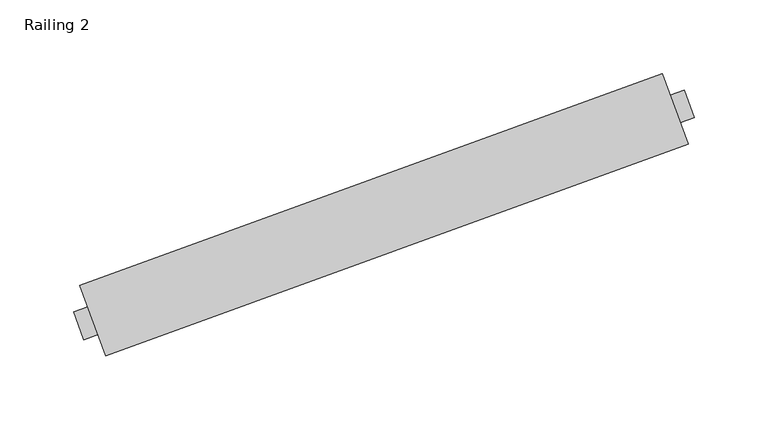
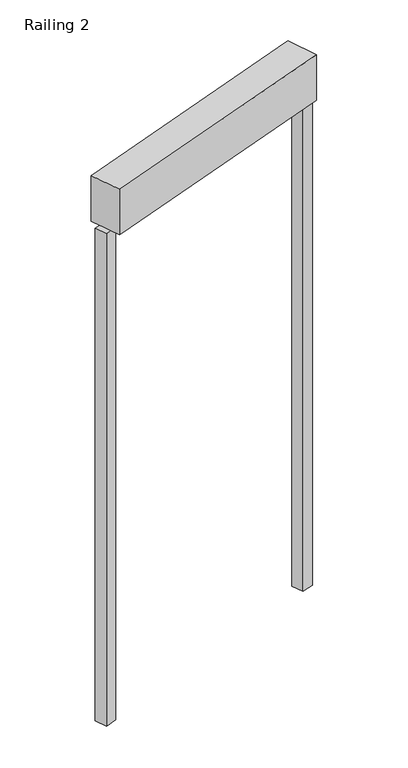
"""IFC4 building model written with IfcOpenShell, lengths in millimetres: railing geometry, Railing 2."""

import ifcopenshell
import ifcopenshell.guid

model = None  # the IFC model being written
_history = None  # IfcOwnerHistory: only IFC2X3 demands one
_inside = {}  # id of a spatial element -> (the spatial element, [elements in it])
_under = {}  # id of a project, library or spatial element -> (it, [spatial elements below it])
_declared = {}  # id of a project -> (the project, [libraries it declares])
_typed = {}  # id of a type object -> (the type object, [elements of that type])
_made_of = {}  # id of a material, layer set ... -> (it, [elements and type objects made of it])


def new_model(schema):
    """Start an empty IFC model of exactly this schema.

    Asked for "IFC4X3", IfcOpenShell would pick the latest addendum, in which some entities
    have other attributes; the version numbers below select the first issue.
    IFC2X3 requires an IfcOwnerHistory on every rooted entity: one is made here for all.
    """
    global model, _history
    if schema == "IFC4X3":
        model = ifcopenshell.file(schema_version=(4, 3, 0, 0))
    else:
        model = ifcopenshell.file(schema=schema)
    _inside.clear()
    _under.clear()
    _declared.clear()
    _typed.clear()
    _made_of.clear()
    _history = None
    if model.schema == "IFC2X3":
        org = make("IfcOrganization", Name="unknown")
        user = make(
            "IfcPersonAndOrganization",
            ThePerson=make("IfcPerson", FamilyName="unknown"),
            TheOrganization=org,
        )
        app = make(
            "IfcApplication",
            ApplicationDeveloper=org,
            Version="unknown",
            ApplicationFullName="unknown",
            ApplicationIdentifier="unknown",
        )
        _history = make(
            "IfcOwnerHistory",
            OwningUser=user,
            OwningApplication=app,
            ChangeAction="ADDED",
            CreationDate=0,
        )
    return model


def make(cls, **values):
    """One entity of the class cls with the attributes given. An attribute that is None is left unset."""
    return model.create_entity(
        cls, **{name: value for name, value in values.items() if value is not None}
    )


def rooted(cls, **values):
    """An entity with a GlobalId (a new one), such as an element, a storey or a relation."""
    return make(cls, GlobalId=ifcopenshell.guid.new(), OwnerHistory=_history, **values)


def si_unit(unit_type, name, prefix=None):
    """IfcSIUnit, for example si_unit("LENGTHUNIT", "METRE", prefix="MILLI")."""
    return make("IfcSIUnit", UnitType=unit_type, Prefix=prefix, Name=name)


def assignment(units):
    """IfcUnitAssignment: the units of a project."""
    return None if units is None else make("IfcUnitAssignment", Units=units)


def point(xyz):
    """IfcCartesianPoint."""
    return None if xyz is None else make("IfcCartesianPoint", Coordinates=xyz)


def direction(xyz):
    """IfcDirection."""
    return None if xyz is None else make("IfcDirection", DirectionRatios=xyz)


def frame(location, z_axis=None, x_axis=None):
    """IfcAxis2Placement3D, a coordinate frame: its origin and axes. An axis left out is left unset."""
    return make(
        "IfcAxis2Placement3D",
        Location=point(location),
        Axis=direction(z_axis),
        RefDirection=direction(x_axis),
    )


def origin():
    """The frame at (0, 0, 0) with its axes left unset."""
    return frame((0.0, 0.0, 0.0))


def origin_with_axes():
    """The frame at (0, 0, 0) with the z axis (0, 0, 1) and the x axis (1, 0, 0) written out."""
    return frame((0.0, 0.0, 0.0), z_axis=(0.0, 0.0, 1.0), x_axis=(1.0, 0.0, 0.0))


def place(relative_to, where):
    """IfcLocalPlacement: puts the frame where relative to a parent placement (None: the world)."""
    return make(
        "IfcLocalPlacement", PlacementRelTo=relative_to, RelativePlacement=where
    )


def context(
    kind, dimensions, precision=None, world=None, true_north=None, identifier=None
):
    """IfcGeometricRepresentationContext, for example the 3D "Model" context."""
    return make(
        "IfcGeometricRepresentationContext",
        ContextIdentifier=identifier,
        ContextType=kind,
        CoordinateSpaceDimension=dimensions,
        Precision=precision,
        WorldCoordinateSystem=world,
        TrueNorth=true_north,
    )


def project(units=None, contexts=None):
    """IfcProject with its units and contexts."""
    return rooted(
        "IfcProject",
        Name="project",
        RepresentationContexts=contexts,
        UnitsInContext=assignment(units),
    )


def spatial(cls, under=None, at=None, **own):
    """A site, building, storey or space (cls), placed at a placement, below another one or the project."""
    s = rooted(cls, ObjectPlacement=at, **own)
    if under is not None:
        _under.setdefault(under.id(), (under, []))[1].append(s)
    return s


def polyline(points):
    """IfcPolyline through the points."""
    return make("IfcPolyline", Points=[point(p) for p in points])


def outline(outer, holes=None, kind="AREA"):
    """IfcArbitraryClosedProfileDef: a profile drawn as a closed curve; with holes, ...WithVoids."""
    if holes is None:
        return make("IfcArbitraryClosedProfileDef", ProfileType=kind, OuterCurve=outer)
    return make(
        "IfcArbitraryProfileDefWithVoids",
        ProfileType=kind,
        OuterCurve=outer,
        InnerCurves=holes,
    )


def extrude(swept, where, along, depth):
    """IfcExtrudedAreaSolid: the profile swept, set in the frame where, extruded along a direction by depth."""
    return make(
        "IfcExtrudedAreaSolid",
        SweptArea=swept,
        Position=where,
        ExtrudedDirection=direction(along),
        Depth=depth,
    )


def shape(context_of_items, identifier, shape_type, items):
    """IfcShapeRepresentation: the items that make up one representation, for example the "Body"."""
    return make(
        "IfcShapeRepresentation",
        ContextOfItems=context_of_items,
        RepresentationIdentifier=identifier,
        RepresentationType=shape_type,
        Items=items,
    )


def source(mapping_origin, context_of_items, identifier, shape_type, items):
    """IfcRepresentationMap: a shape defined once, which mapped items show again and again."""
    return make(
        "IfcRepresentationMap",
        MappingOrigin=mapping_origin,
        MappedRepresentation=shape(context_of_items, identifier, shape_type, items),
    )


def transform(
    local_origin,
    x_axis=None,
    y_axis=None,
    z_axis=None,
    scale=None,
    scale2=None,
    scale3=None,
    uniform=True,
):
    """IfcCartesianTransformationOperator3D, or its non-uniform kind. x_axis, y_axis, z_axis: its Axis1, 2, 3."""
    if uniform:
        return make(
            "IfcCartesianTransformationOperator3D",
            Axis1=direction(x_axis),
            Axis2=direction(y_axis),
            LocalOrigin=point(local_origin),
            Scale=scale,
            Axis3=direction(z_axis),
        )
    return make(
        "IfcCartesianTransformationOperator3DnonUniform",
        Axis1=direction(x_axis),
        Axis2=direction(y_axis),
        LocalOrigin=point(local_origin),
        Scale=scale,
        Axis3=direction(z_axis),
        Scale2=scale2,
        Scale3=scale3,
    )


def mapped(mapping_source, mapping_target):
    """IfcMappedItem: shows the shape of a source again, moved by a transform."""
    return make(
        "IfcMappedItem", MappingSource=mapping_source, MappingTarget=mapping_target
    )


def made_of(thing, what):
    """Note that an element or type object is made of a material, layer set ...; save() writes the relation."""
    if what is not None:
        _made_of.setdefault(what.id(), (what, []))[1].append(thing)
    return thing


def element(
    cls,
    number,
    at=None,
    inside=None,
    cuts=None,
    type_object=None,
    material=None,
    context=None,
    identifier="Body",
    shape_type=None,
    held_by="IfcProductDefinitionShape",
    body=None,
    shapes=None,
    **own,
):
    """One element of the class cls, such as IfcWall. Its Tag is "e" and its number.

    at: its placement. inside: the storey or other place that contains it. cuts: it is an
    opening in that element (IfcRelVoidsElement). A single representation is given by context,
    identifier, shape_type and body (its items); several are given by shapes. held_by: the class
    of the entity that holds the representations. save() writes the other relations.
    """
    e = rooted(cls, Tag="e%d" % number, ObjectPlacement=at, **own)
    if body is not None:
        shapes = [shape(context, identifier, shape_type, body)]
    if shapes is not None:
        e.Representation = make(held_by, Representations=shapes)
    if inside is not None:
        _inside.setdefault(inside.id(), (inside, []))[1].append(e)
    if cuts is not None:
        rooted(
            "IfcRelVoidsElement", RelatingBuildingElement=cuts, RelatedOpeningElement=e
        )
    if type_object is not None:
        _typed.setdefault(type_object.id(), (type_object, []))[1].append(e)
    return made_of(e, material)


def aggregate(whole, parts):
    """IfcRelAggregates: a whole, such as a stair, and the parts it consists of."""
    return rooted("IfcRelAggregates", RelatingObject=whole, RelatedObjects=parts)


def save(model, path):
    """Write the relations noted so far, then the file.

    IfcRelAggregates (storeys below a building ...), IfcRelContainedInSpatialStructure (elements
    in a storey), IfcRelDefinesByType, IfcRelAssociatesMaterial and IfcRelDeclares: one each for
    every whole, place, type object, material and project.
    """
    for whole, parts in _under.values():
        aggregate(whole, parts)
    for where, things in _inside.values():
        rooted(
            "IfcRelContainedInSpatialStructure",
            RelatedElements=things,
            RelatingStructure=where,
        )
    for kind, things in _typed.values():
        rooted("IfcRelDefinesByType", RelatedObjects=things, RelatingType=kind)
    for what, things in _made_of.values():
        rooted("IfcRelAssociatesMaterial", RelatedObjects=things, RelatingMaterial=what)
    for by, libraries in _declared.values():
        rooted("IfcRelDeclares", RelatingContext=by, RelatedDefinitions=libraries)
    model.write(path)


def railing_2_3b7484bf(model_context):
    return source(origin(), model_context, "Body", "SweptSolid", [
        extrude(outline(polyline([(36688.7002148, 9165.8288881), (36671.3254057, 9213.5652056), (37065.9957471, 9357.2152025), (37083.3705562, 9309.478885), (36688.7002148, 9165.8288881)])), frame((0.0, 0.0, 823.8), z_axis=(0.0, 0.0, 1.0), x_axis=(1.0, 0.0, 0.0)), (0.0, 0.0, 1.0), 76.2),
        extrude(outline(polyline([(37068.7064768, 9320.5298929), (37061.8660007, 9339.3237186), (37080.6598265, 9346.1641947), (37087.5003025, 9327.3703689), (37068.7064768, 9320.5298929)])), origin_with_axes(), (0.0, 0.0, 1.0), 823.8),
        extrude(outline(polyline([(36674.0361354, 9176.8798959), (36667.1956593, 9195.6737217), (36685.9894851, 9202.5141977), (36692.8299611, 9183.720372), (36674.0361354, 9176.8798959)])), origin_with_axes(), (0.0, 0.0, 1.0), 823.8),
    ])


if __name__ == "__main__":
    model = new_model("IFC4")
    model_context = context("Model", 3, world=origin())
    ifc_project = project(units=[si_unit("LENGTHUNIT", "METRE", prefix="MILLI")], contexts=[model_context])
    site = spatial("IfcSite", under=ifc_project)
    building = spatial("IfcBuilding", under=site)
    placement = place(None, origin())
    railing_2_shape = railing_2_3b7484bf(model_context)
    element("IfcRailing", 1, ObjectType="Railing 2", at=placement, inside=building, context=model_context, shape_type="MappedRepresentation", body=[
        mapped(railing_2_shape, transform((0.0, 0.0, 0.0), x_axis=(1.0, 0.0, 0.0), y_axis=(0.0, 1.0, 0.0), z_axis=(0.0, 0.0, 1.0))),
    ])
    save(model, "model.ifc")
